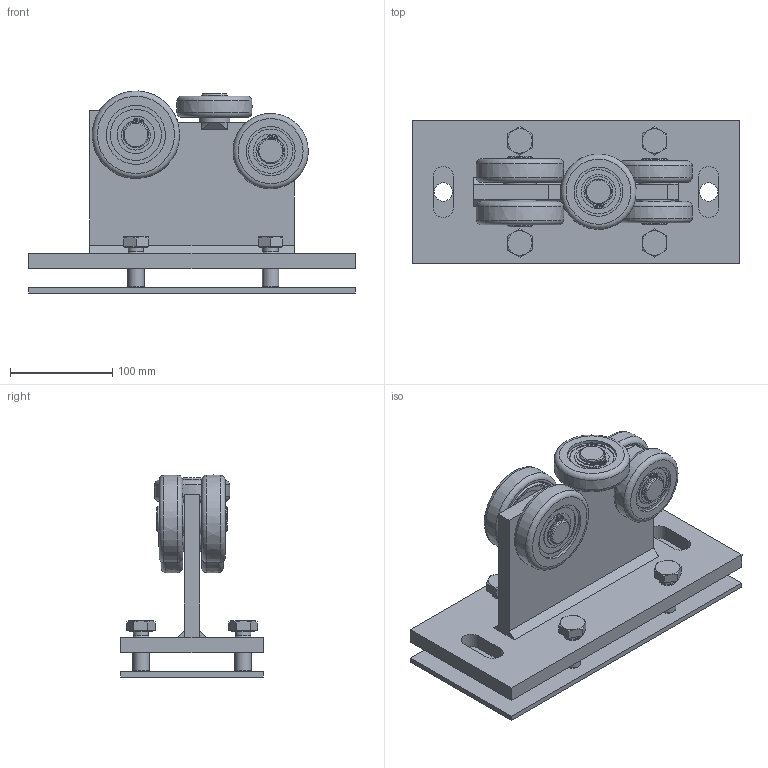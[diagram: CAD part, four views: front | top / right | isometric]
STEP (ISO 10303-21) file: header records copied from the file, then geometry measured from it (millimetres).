
FILE_DESCRIPTION(/* description */ ('Laufrolle FRT 5'),/* implementation_level */ '2;1');
FILE_NAME(/* name */ 'Q:\sge-ma\Produktmanagement-STB\STB\Workspace\stp\010337682.stp',/* time_stamp */ '2015-06-01T10:04:53+02:00',/* author */ ('avschreier'),/* organization */ (''),/* preprocessor_version */ 'ST-DEVELOPER v15.6',/* originating_system */ 'Autodesk Inventor 2015',/* authorisation */ '');
FILE_SCHEMA (('CONFIG_CONTROL_DESIGN'));
Length unit declared in the file: millimetre
Products named in the file (15): 010337682_Schweißnähte; 000304026; 000304027; 337000293; 000302259; 000302258; 337000290; 337000292; 337000291; 000302257; DIN_625-6205_ZZ_en; DIN_625-6305_ZZ_en; DIN_471-25x1,2_en; DIN_EN_ISO_4017-M16x40_en; 010337682
Bounding box: 320 x 140 x 197.94 mm (x, y, z)
Volume: 1748717.2 mm3; surface area: 458314 mm2
Topology: 33 solids, 38 shells, 571 faces, 1460 edges, 950 vertices
Faces by surface type: plane 218, cylinder 138, torus 118, cone 52, sphere 36, bspline 9
Full cylindrical faces by diameter (mm): 2 x10, 13.835 x4, 14.917 x4, 16 x4, 18 x2, 22 x4, 23.9 x5, 25 x15, 26.6 x4, 30 x1, 31.8 x4, 33.64 x12, 34 x2, 36.84 x8, 43.36 x12, 48 x3, 50.16 x8, 52 x6, 58 x2, 62 x4
Entity records: 19725 total; most frequent: CARTESIAN_POINT 13853, DIRECTION 1175, ORIENTED_EDGE 984, AXIS2_PLACEMENT_3D 522, EDGE_CURVE 492, EDGE_LOOP 429, VERTEX_POINT 373, ADVANCED_FACE 260
